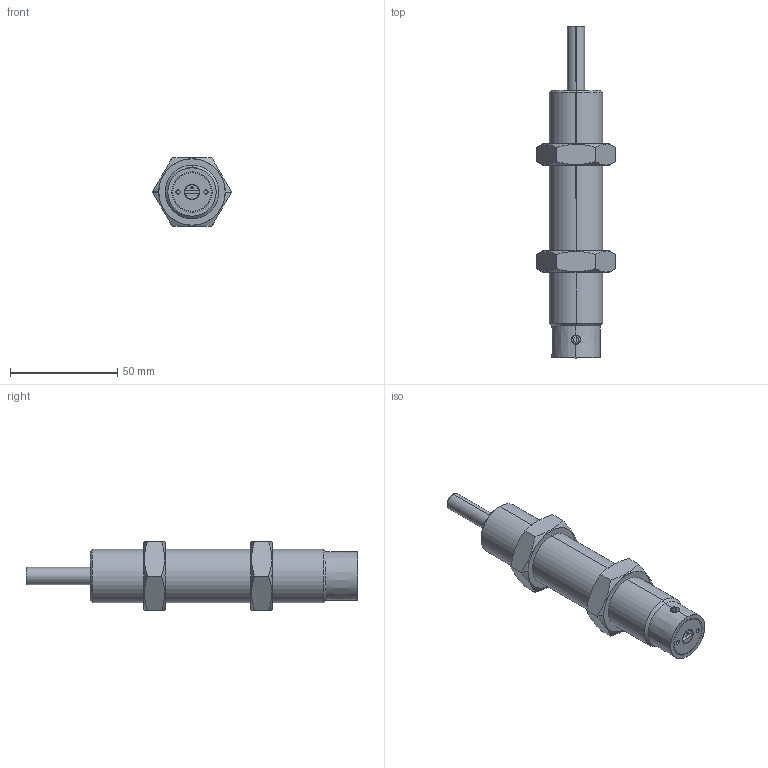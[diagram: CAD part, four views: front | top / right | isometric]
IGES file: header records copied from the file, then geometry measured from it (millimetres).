
Start section: SolidWorks IGES file using analytic representation for surfaces
Bounding box: 36.95 x 155 x 32 mm (x, y, z)
Surface area: 16633.3 mm2 (no closed solid volume)
Topology: 0 solids, 0 shells, 85 faces, 1662 edges, 1662 vertices
Faces by surface type: revolution 48, bspline 37
